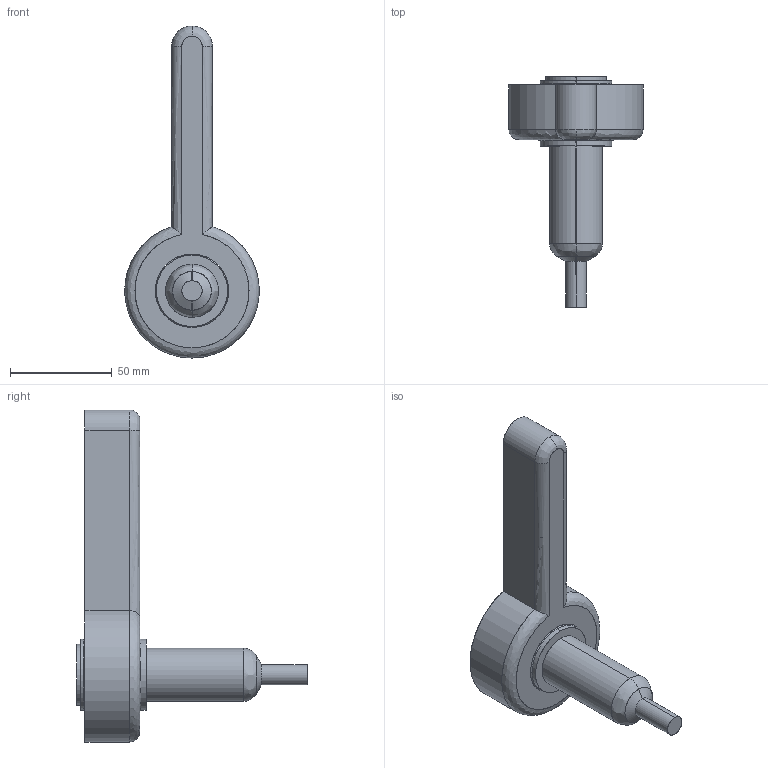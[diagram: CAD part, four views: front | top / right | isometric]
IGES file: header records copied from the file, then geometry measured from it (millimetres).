
Start section: SolidWorks IGES file using analytic representation for surfaces
Global section: file name: C:\Users\luca.EMPAD\Desktop\TEM\Sede UGBE3501-S-A C-59 L-91 P-20.IGS; native system: SolidWorks 2012; preprocessor: SolidWorks 2012; author: luca; date: 120330.142810; units: millimetre
Bounding box: 65.98 x 113.15 x 163 mm (x, y, z)
Surface area: 26108.7 mm2 (no closed solid volume)
Topology: 0 solids, 0 shells, 34 faces, 754 edges, 754 vertices
Faces by surface type: revolution 21, bspline 13
